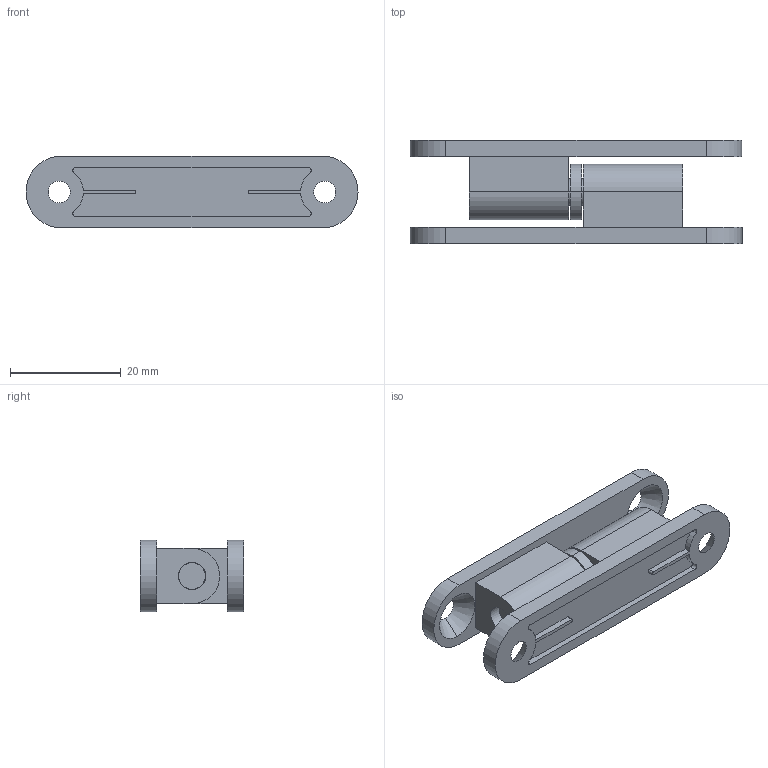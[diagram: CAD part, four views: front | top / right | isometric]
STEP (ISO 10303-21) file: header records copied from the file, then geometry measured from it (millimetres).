
FILE_DESCRIPTION (( 'STEP AP203' ), '1' );
FILE_NAME ('XG02-041-3.STEP', '2023-12-07T07:54:36', ( '' ), ( '' ), 'SwSTEP 2.0', 'SolidWorks 2020', '' );
FILE_SCHEMA (( 'CONFIG_CONTROL_DESIGN' ));
Length unit declared in the file: millimetre
Products named in the file (1): XG02-041-3
Bounding box: 60 x 18.7 x 13 mm (x, y, z)
Volume: 7063.2 mm3; surface area: 6463.3 mm2
Topology: 3 solids, 3 shells, 279 faces, 862 edges, 534 vertices
Faces by surface type: cylinder 178, plane 93, cone 8
Entity records: 10127 total; most frequent: CARTESIAN_POINT 1856, DIRECTION 1852, ORIENTED_EDGE 1724, EDGE_CURVE 862, AXIS2_PLACEMENT_3D 770, VERTEX_POINT 534, CIRCLE 490, EDGE_LOOP 356
